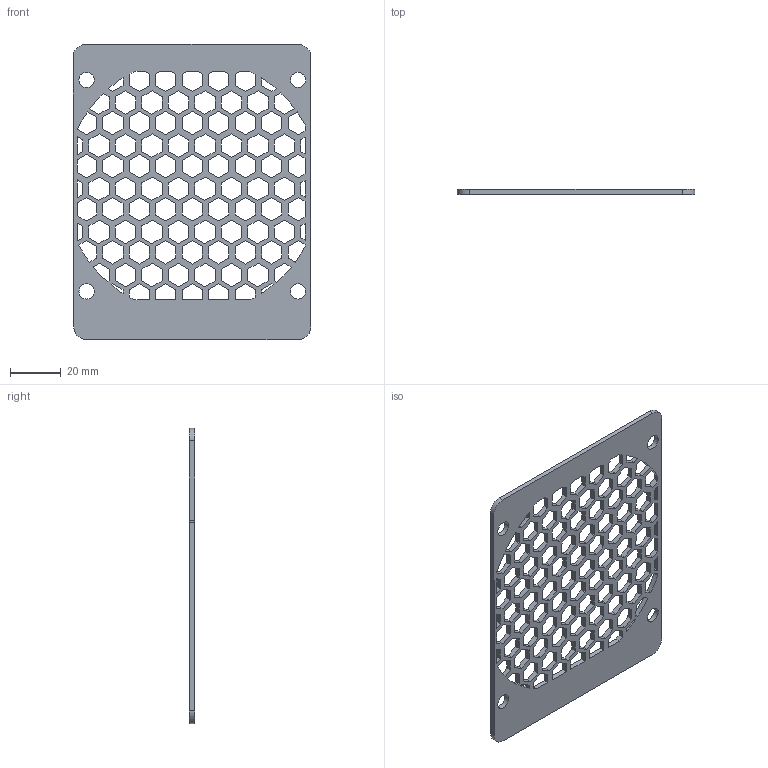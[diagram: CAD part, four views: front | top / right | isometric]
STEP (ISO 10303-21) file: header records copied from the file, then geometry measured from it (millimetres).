
FILE_DESCRIPTION(/* description */ (''),/* implementation_level */ '2;1');
FILE_NAME(/* name */ 'fan_cover_JARVIS_airpath.step',/* time_stamp */ '2023-06-05T13:31:03+02:00',/* author */ (''),/* organization */ (''),/* preprocessor_version */ 'ST-DEVELOPER v19.2',/* originating_system */ 'Autodesk Translation Framework v12.6.0.85',/* authorisation */ '');
FILE_SCHEMA (('AUTOMOTIVE_DESIGN { 1 0 10303 214 3 1 1 }'));
Length unit declared in the file: millimetre
Products named in the file (2): Magnet Airpath; Airpath Gitter v6
Assembly tree (1 placements, depth 2):
  Magnet Airpath
    Airpath Gitter v6
Bounding box: 93.63 x 2 x 116.4 mm (x, y, z)
Volume: 12270.7 mm3; surface area: 18215.4 mm2
Topology: 1 solids, 1 shells, 569 faces, 1701 edges, 1134 vertices
Faces by surface type: plane 544, cylinder 25
Full cylindrical faces by diameter (mm): 6 x4
Entity records: 19280 total; most frequent: CARTESIAN_POINT 3407, ORIENTED_EDGE 3402, DIRECTION 2895, EDGE_CURVE 1701, LINE 1651, VECTOR 1651, VERTEX_POINT 1134, EDGE_LOOP 769
